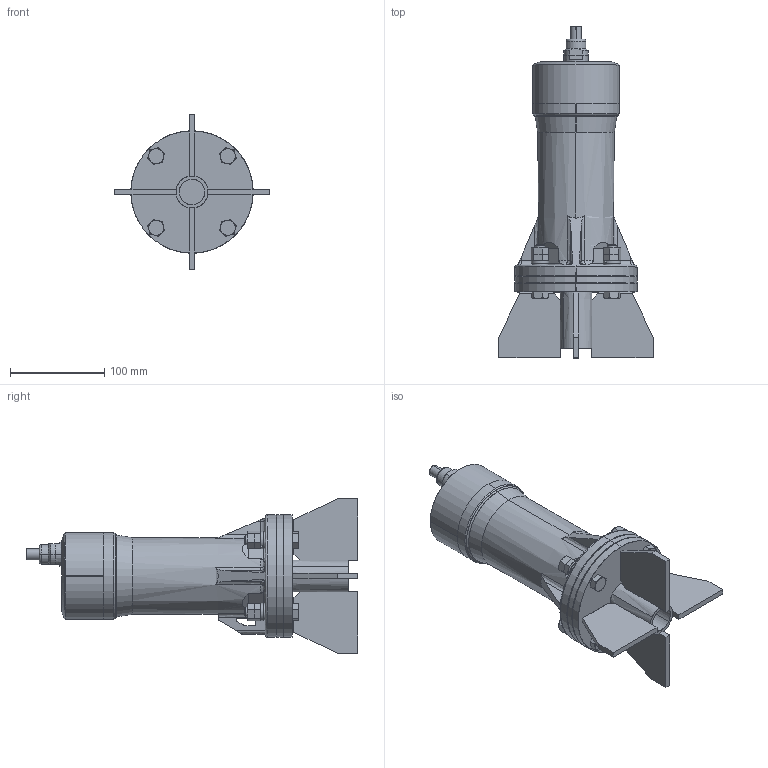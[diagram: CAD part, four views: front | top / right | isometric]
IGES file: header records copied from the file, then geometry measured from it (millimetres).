
Start section: SolidWorks IGES file using analytic representation for surfaces
Global section: file name: V:\WORK\08133\HP 寸法図\EK\test_D50000A-000 EK5A_defeature.IGS,15; native system: HSolidWorks 2018; preprocessor: SolidWorks 2018; author: n-udagawa; date: 230112.163159; units: millimetre
Bounding box: 164 x 352.5 x 164 mm (x, y, z)
Surface area: 155419 mm2 (no closed solid volume)
Topology: 0 solids, 0 shells, 435 faces, 6390 edges, 7432 vertices
Faces by surface type: bspline 267, revolution 168
